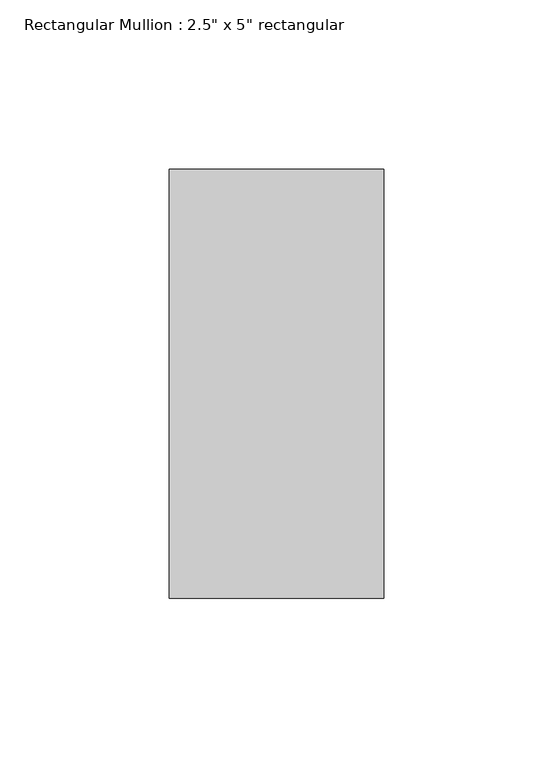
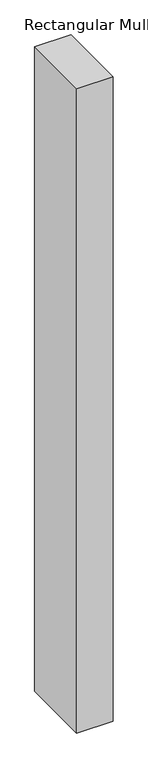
"""IFC4 building model written with IfcOpenShell, lengths in millimetres: member geometry."""

from ifc_helpers import new_model, si_unit, frame, origin, place, context, project, spatial, polyline, outline, extrude, source, transform, mapped, element, save


def member_2c3f20f2(model_context):
    return source(origin(), model_context, "Body", "SweptSolid", [
        extrude(outline(polyline([(31.75, 63.5), (31.75, -63.5), (-31.75, -63.5), (-31.75, 63.5), (31.75, 63.5)])), frame((0.0, 0.0, -1188.8151287), z_axis=(0.0, 0.0, 1.0), x_axis=(1.0, 0.0, 0.0)), (0.0, 0.0, 1.0), 1188.8151287),
    ])


if __name__ == "__main__":
    model = new_model("IFC4")
    model_context = context("Model", 3, world=origin())
    ifc_project = project(units=[si_unit("LENGTHUNIT", "METRE", prefix="MILLI")], contexts=[model_context])
    site = spatial("IfcSite", under=ifc_project)
    building = spatial("IfcBuilding", under=site)
    placement = place(None, origin())
    member_shape = member_2c3f20f2(model_context)
    element("IfcMember", 1, ObjectType="Rectangular Mullion : 2.5\" x 5\" rectangular", at=placement, inside=building, context=model_context, shape_type="MappedRepresentation", body=[
        mapped(member_shape, transform((0.0, 0.0, 0.0), x_axis=(1.0, 0.0, 0.0), y_axis=(0.0, 1.0, 0.0), z_axis=(0.0, 0.0, 1.0))),
    ])
    save(model, "model.ifc")
